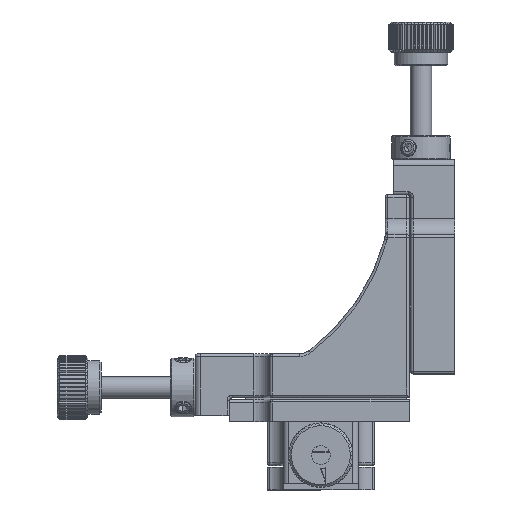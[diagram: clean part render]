
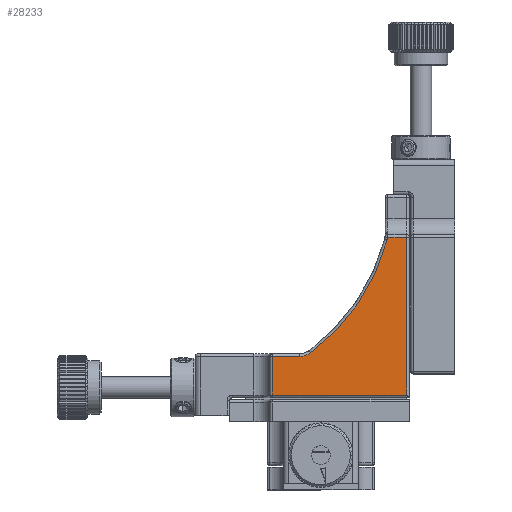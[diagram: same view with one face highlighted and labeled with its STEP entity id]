
A CAD part, top view. The second image highlights one B-rep face of the part: STEP entity #28233.
In plain terms, the highlighted planar face has unit normal (0, 0, 1).
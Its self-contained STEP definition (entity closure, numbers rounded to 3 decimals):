
#2301 = CARTESIAN_POINT ( 'NONE',  ( -22.057, 15.873, 3. ) ) ;
#2302 = DIRECTION ( 'NONE',  ( 0., -1., 0. ) ) ;
#2303 = CARTESIAN_POINT ( 'NONE',  ( -16.521, 45.859, 3. ) ) ;
#2304 = DIRECTION ( 'NONE',  ( -1., 0., 0. ) ) ;
#7666 = EDGE_CURVE ( 'NONE', #31091, #31090, #26376, .T. ) ;
#7668 = EDGE_CURVE ( 'NONE', #31093, #31091, #26374, .T. ) ;
#7670 = EDGE_CURVE ( 'NONE', #31102, #31093, #26372, .T. ) ;
#7672 = EDGE_CURVE ( 'NONE', #31094, #31102, #26370, .T. ) ;
#7746 = EDGE_CURVE ( 'NONE', #31129, #31124, #26276, .T. ) ;
#7749 = EDGE_CURVE ( 'NONE', #31137, #31129, #26270, .T. ) ;
#9632 = EDGE_CURVE ( 'NONE', #31090, #31137, #25849, .T. ) ;
#9634 = EDGE_CURVE ( 'NONE', #31124, #31094, #25847, .T. ) ;
#10457 = DIRECTION ( 'NONE',  ( -1., 0., 0. ) ) ;
#10470 = CARTESIAN_POINT ( 'NONE',  ( -16.521, 23.573, 3. ) ) ;
#10477 = CARTESIAN_POINT ( 'NONE',  ( -16.991, 27.073, 3. ) ) ;
#10478 = DIRECTION ( 'NONE',  ( 0., 0., -1. ) ) ;
#10479 = DIRECTION ( 'NONE',  ( -1., 0., 0. ) ) ;
#10483 = CARTESIAN_POINT ( 'NONE',  ( -37.863, 55.168, 3. ) ) ;
#10484 = DIRECTION ( 'NONE',  ( 0., 0., -1. ) ) ;
#10485 = DIRECTION ( 'NONE',  ( -1., 0., 0. ) ) ;
#10490 = CARTESIAN_POINT ( 'NONE',  ( -4.021, 46.24, 3. ) ) ;
#10491 = DIRECTION ( 'NONE',  ( 0., 0., -1. ) ) ;
#10492 = DIRECTION ( 'NONE',  ( -1., 0., 0. ) ) ;
#14905 = AXIS2_PLACEMENT_3D ( 'NONE', #10477, #10478, #10479 ) ;
#14909 = AXIS2_PLACEMENT_3D ( 'NONE', #10483, #10484, #10485 ) ;
#14913 = AXIS2_PLACEMENT_3D ( 'NONE', #10490, #10491, #10492 ) ;
#17140 = DIRECTION ( 'NONE',  ( 0., 1., 0. ) ) ;
#17149 = CARTESIAN_POINT ( 'NONE',  ( 2.979, 46.323, 3. ) ) ;
#17175 = CARTESIAN_POINT ( 'NONE',  ( -16.521, 16.373, 3. ) ) ;
#17178 = DIRECTION ( 'NONE',  ( 1., 0., 0. ) ) ;
#21352 = CARTESIAN_POINT ( 'NONE',  ( -16.521, 15.873, 3. ) ) ;
#21353 = PLANE ( 'NONE',  #36956 ) ;
#21366 = DIRECTION ( 'NONE',  ( 0., 0., -1. ) ) ;
#21367 = DIRECTION ( 'NONE',  ( -1., 0., 0. ) ) ;
#25844 = VECTOR ( 'NONE', #2304, 1000. ) ;
#25846 = VECTOR ( 'NONE', #2302, 1000. ) ;
#25847 = LINE ( 'NONE', #2303, #25844 ) ;
#25849 = LINE ( 'NONE', #2301, #25846 ) ;
#26267 = VECTOR ( 'NONE', #17178, 1000. ) ;
#26270 = LINE ( 'NONE', #17175, #26267 ) ;
#26272 = VECTOR ( 'NONE', #17140, 1000. ) ;
#26276 = LINE ( 'NONE', #17149, #26272 ) ;
#26370 = CIRCLE ( 'NONE', #14913, 3.5 ) ;
#26372 = CIRCLE ( 'NONE', #14909, 38.5 ) ;
#26373 = VECTOR ( 'NONE', #10457, 1000. ) ;
#26374 = CIRCLE ( 'NONE', #14905, 3.5 ) ;
#26376 = LINE ( 'NONE', #10470, #26373 ) ;
#28233 = ADVANCED_FACE ( 'NONE', ( #37061 ), #21353, .F. ) ;
#29135 = EDGE_LOOP ( 'NONE', ( #32959, #32958, #32957, #32956, #32955, #32954, #32953, #32952 ) ) ;
#31090 = VERTEX_POINT ( 'NONE', #34471 ) ;
#31091 = VERTEX_POINT ( 'NONE', #34472 ) ;
#31093 = VERTEX_POINT ( 'NONE', #34474 ) ;
#31094 = VERTEX_POINT ( 'NONE', #34475 ) ;
#31102 = VERTEX_POINT ( 'NONE', #34483 ) ;
#31124 = VERTEX_POINT ( 'NONE', #34505 ) ;
#31129 = VERTEX_POINT ( 'NONE', #34510 ) ;
#31137 = VERTEX_POINT ( 'NONE', #34518 ) ;
#32952 = ORIENTED_EDGE ( 'NONE', *, *, #7746, .T. ) ;
#32953 = ORIENTED_EDGE ( 'NONE', *, *, #7749, .T. ) ;
#32954 = ORIENTED_EDGE ( 'NONE', *, *, #9632, .T. ) ;
#32955 = ORIENTED_EDGE ( 'NONE', *, *, #7666, .T. ) ;
#32956 = ORIENTED_EDGE ( 'NONE', *, *, #7668, .T. ) ;
#32957 = ORIENTED_EDGE ( 'NONE', *, *, #7670, .T. ) ;
#32958 = ORIENTED_EDGE ( 'NONE', *, *, #7672, .T. ) ;
#32959 = ORIENTED_EDGE ( 'NONE', *, *, #9634, .T. ) ;
#34471 = CARTESIAN_POINT ( 'NONE',  ( -22.057, 23.573, 3. ) ) ;
#34472 = CARTESIAN_POINT ( 'NONE',  ( -16.991, 23.573, 3. ) ) ;
#34474 = CARTESIAN_POINT ( 'NONE',  ( -14.904, 24.263, 3. ) ) ;
#34475 = CARTESIAN_POINT ( 'NONE',  ( -0.542, 45.859, 3. ) ) ;
#34483 = CARTESIAN_POINT ( 'NONE',  ( -0.637, 45.347, 3. ) ) ;
#34505 = CARTESIAN_POINT ( 'NONE',  ( 2.979, 45.859, 3. ) ) ;
#34510 = CARTESIAN_POINT ( 'NONE',  ( 2.979, 16.373, 3. ) ) ;
#34518 = CARTESIAN_POINT ( 'NONE',  ( -22.057, 16.373, 3. ) ) ;
#36956 = AXIS2_PLACEMENT_3D ( 'NONE', #21352, #21366, #21367 ) ;
#37061 = FACE_OUTER_BOUND ( 'NONE', #29135, .T. ) ;
